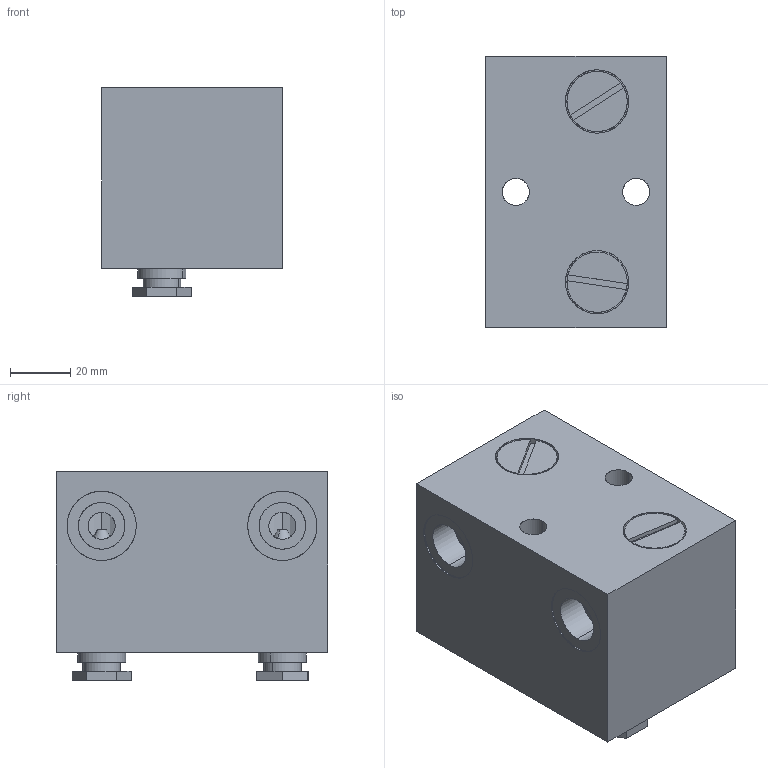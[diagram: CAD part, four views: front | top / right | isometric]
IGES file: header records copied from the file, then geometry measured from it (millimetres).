
Start section: START RECORD GO HERE.
Global section: file name: 10063.igs; native system: DASSAULT SYSTEMES CATIA V5 R20 - www.3ds.com; preprocessor: CATIA Version 5 Release 20 ; author: r.borello; organization: CFTORINO; date: 20190709.102748; units: millimetre
Bounding box: 60 x 90 x 69.3 mm (x, y, z)
Surface area: 47214.5 mm2 (no closed solid volume)
Topology: 0 solids, 0 shells, 188 faces, 938 edges, 938 vertices
Faces by surface type: revolution 118, plane 70
